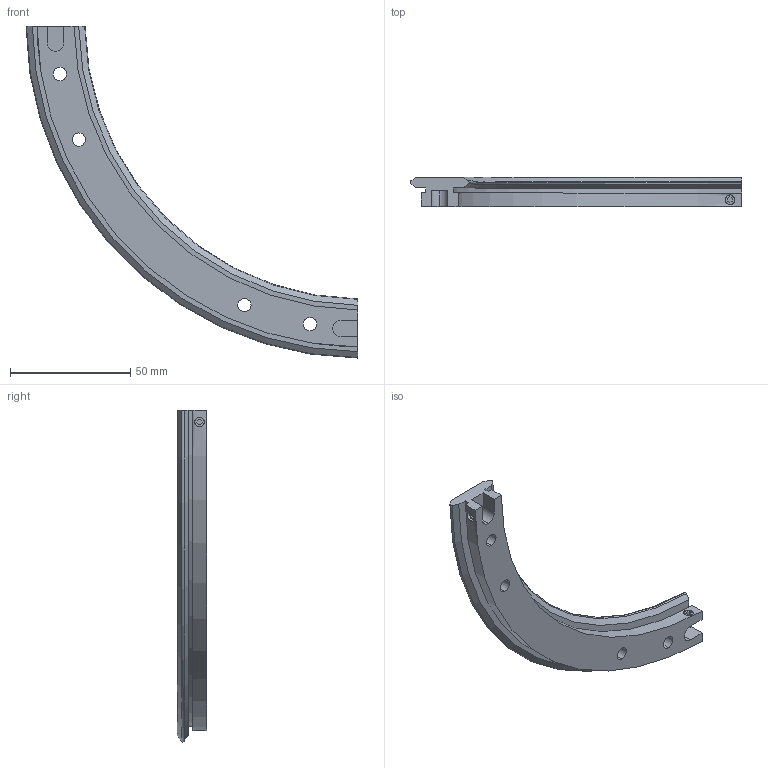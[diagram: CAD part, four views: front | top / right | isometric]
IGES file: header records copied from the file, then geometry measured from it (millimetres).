
Start section: 3D InterOp IGES (v. 2019 1.0.2), Spatial Corp. Copyright (c) 1999-2017.
Global section: file name: TR25 255 R90.igs; native system: Spatial Corp.; preprocessor: 3D InterOp GENERIC/IGES 3.0; author: Noname; organization: Noname; date: 20220628.092400; units: millimetre
Bounding box: 138.3 x 12.25 x 138.3 mm (x, y, z)
Surface area: 16722 mm2 (no closed solid volume)
Topology: 0 solids, 0 shells, 88 faces, 444 edges, 444 vertices
Faces by surface type: extrusion 50, revolution 38
